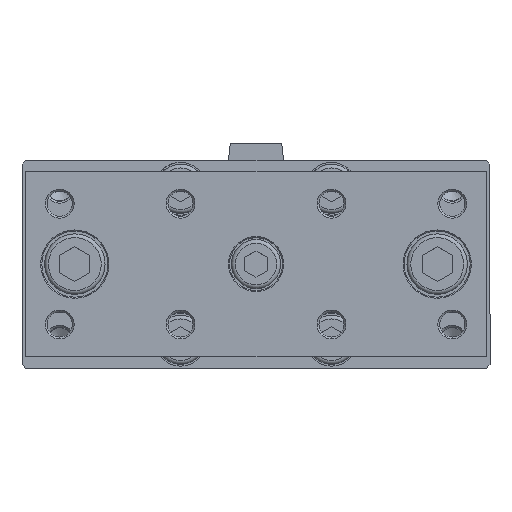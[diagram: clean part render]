
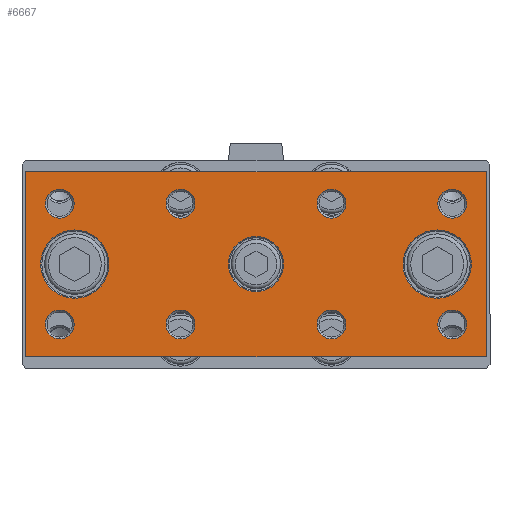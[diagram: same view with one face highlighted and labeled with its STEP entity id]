
A CAD part, top view. The second image highlights one B-rep face of the part: STEP entity #6667.
In plain terms, the highlighted planar face has unit normal (0, 0, 1).
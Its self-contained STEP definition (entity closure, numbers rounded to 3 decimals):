
#6503=CARTESIAN_POINT('',(-38.352,1.555,118.5));
#6504=VERTEX_POINT('',#6503);
#6505=CARTESIAN_POINT('',(-47.402,1.555,118.5));
#6506=DIRECTION('',(0.0,0.0,1.0));
#6507=DIRECTION('',(-1.0,0.0,0.0));
#6508=AXIS2_PLACEMENT_3D('',#6505,#6506,#6507);
#6509=CIRCLE('',#6508,9.05);
#6510=EDGE_CURVE('',#6504,#6504,#6509,.T.);
#6515=CARTESIAN_POINT('',(0.598,5.555,118.5));
#6516=DIRECTION('',(0.0,0.0,1.0));
#6517=DIRECTION('',(1.0,0.0,0.0));
#6518=AXIS2_PLACEMENT_3D('',#6515,#6516,#6517);
#6519=PLANE('',#6518);
#6520=CARTESIAN_POINT('',(61.598,26.055,118.5));
#6521=VERTEX_POINT('',#6520);
#6522=CARTESIAN_POINT('',(61.598,-22.945,118.5));
#6523=VERTEX_POINT('',#6522);
#6524=CARTESIAN_POINT('',(61.598,26.055,118.5));
#6525=DIRECTION('',(0.0,-1.0,0.0));
#6526=VECTOR('',#6525,49.);
#6527=LINE('',#6524,#6526);
#6528=EDGE_CURVE('',#6521,#6523,#6527,.T.);
#6529=ORIENTED_EDGE('',*,*,#6528,.F.);
#6530=CARTESIAN_POINT('',(-60.402,26.055,118.5));
#6531=VERTEX_POINT('',#6530);
#6532=CARTESIAN_POINT('',(-60.402,26.055,118.5));
#6533=DIRECTION('',(1.0,0.0,0.0));
#6534=VECTOR('',#6533,122.0);
#6535=LINE('',#6532,#6534);
#6536=EDGE_CURVE('',#6531,#6521,#6535,.T.);
#6537=ORIENTED_EDGE('',*,*,#6536,.F.);
#6538=CARTESIAN_POINT('',(-60.402,-22.945,118.5));
#6539=VERTEX_POINT('',#6538);
#6540=CARTESIAN_POINT('',(-60.402,-22.945,118.5));
#6541=DIRECTION('',(0.0,1.0,0.0));
#6542=VECTOR('',#6541,49.);
#6543=LINE('',#6540,#6542);
#6544=EDGE_CURVE('',#6539,#6531,#6543,.T.);
#6545=ORIENTED_EDGE('',*,*,#6544,.F.);
#6546=CARTESIAN_POINT('',(61.598,-22.945,118.5));
#6547=DIRECTION('',(-1.0,0.0,0.0));
#6548=VECTOR('',#6547,122.);
#6549=LINE('',#6546,#6548);
#6550=EDGE_CURVE('',#6523,#6539,#6549,.T.);
#6551=ORIENTED_EDGE('',*,*,#6550,.F.);
#6552=EDGE_LOOP('',(#6529,#6537,#6545,#6551));
#6553=FACE_OUTER_BOUND('',#6552,.T.);
#6554=CARTESIAN_POINT('',(7.898,1.555,118.5));
#6555=VERTEX_POINT('',#6554);
#6556=CARTESIAN_POINT('',(0.598,1.555,118.5));
#6557=DIRECTION('',(0.0,0.0,1.0));
#6558=DIRECTION('',(-1.0,0.0,0.0));
#6559=AXIS2_PLACEMENT_3D('',#6556,#6557,#6558);
#6560=CIRCLE('',#6559,7.3);
#6561=EDGE_CURVE('',#6555,#6555,#6560,.T.);
#6562=ORIENTED_EDGE('',*,*,#6561,.F.);
#6563=EDGE_LOOP('',(#6562));
#6564=FACE_BOUND('',#6563,.T.);
#6565=CARTESIAN_POINT('',(24.422,-14.445,118.5));
#6566=VERTEX_POINT('',#6565);
#6567=CARTESIAN_POINT('',(20.598,-14.445,118.5));
#6568=DIRECTION('',(0.0,0.0,1.0));
#6569=DIRECTION('',(-1.0,0.0,0.0));
#6570=AXIS2_PLACEMENT_3D('',#6567,#6568,#6569);
#6571=CIRCLE('',#6570,3.824);
#6572=EDGE_CURVE('',#6566,#6566,#6571,.T.);
#6573=ORIENTED_EDGE('',*,*,#6572,.F.);
#6574=EDGE_LOOP('',(#6573));
#6575=FACE_BOUND('',#6574,.T.);
#6576=CARTESIAN_POINT('',(-47.578,-14.445,118.5));
#6577=VERTEX_POINT('',#6576);
#6578=CARTESIAN_POINT('',(-51.402,-14.445,118.5));
#6579=DIRECTION('',(0.0,0.0,1.0));
#6580=DIRECTION('',(-1.0,0.0,0.0));
#6581=AXIS2_PLACEMENT_3D('',#6578,#6579,#6580);
#6582=CIRCLE('',#6581,3.823);
#6583=EDGE_CURVE('',#6577,#6577,#6582,.T.);
#6584=ORIENTED_EDGE('',*,*,#6583,.F.);
#6585=EDGE_LOOP('',(#6584));
#6586=FACE_BOUND('',#6585,.T.);
#6587=CARTESIAN_POINT('',(56.422,17.555,118.5));
#6588=VERTEX_POINT('',#6587);
#6589=CARTESIAN_POINT('',(52.598,17.555,118.5));
#6590=DIRECTION('',(0.0,0.0,1.0));
#6591=DIRECTION('',(-1.0,0.0,0.0));
#6592=AXIS2_PLACEMENT_3D('',#6589,#6590,#6591);
#6593=CIRCLE('',#6592,3.823);
#6594=EDGE_CURVE('',#6588,#6588,#6593,.T.);
#6595=ORIENTED_EDGE('',*,*,#6594,.F.);
#6596=EDGE_LOOP('',(#6595));
#6597=FACE_BOUND('',#6596,.T.);
#6598=CARTESIAN_POINT('',(56.422,-14.445,118.5));
#6599=VERTEX_POINT('',#6598);
#6600=CARTESIAN_POINT('',(52.598,-14.445,118.5));
#6601=DIRECTION('',(0.0,0.0,1.0));
#6602=DIRECTION('',(-1.0,0.0,0.0));
#6603=AXIS2_PLACEMENT_3D('',#6600,#6601,#6602);
#6604=CIRCLE('',#6603,3.823);
#6605=EDGE_CURVE('',#6599,#6599,#6604,.T.);
#6606=ORIENTED_EDGE('',*,*,#6605,.F.);
#6607=EDGE_LOOP('',(#6606));
#6608=FACE_BOUND('',#6607,.T.);
#6609=CARTESIAN_POINT('',(-47.578,17.555,118.5));
#6610=VERTEX_POINT('',#6609);
#6611=CARTESIAN_POINT('',(-51.402,17.555,118.5));
#6612=DIRECTION('',(0.0,0.0,1.0));
#6613=DIRECTION('',(-1.0,0.0,0.0));
#6614=AXIS2_PLACEMENT_3D('',#6611,#6612,#6613);
#6615=CIRCLE('',#6614,3.823);
#6616=EDGE_CURVE('',#6610,#6610,#6615,.T.);
#6617=ORIENTED_EDGE('',*,*,#6616,.F.);
#6618=EDGE_LOOP('',(#6617));
#6619=FACE_BOUND('',#6618,.T.);
#6620=CARTESIAN_POINT('',(-15.578,17.555,118.5));
#6621=VERTEX_POINT('',#6620);
#6622=CARTESIAN_POINT('',(-19.402,17.555,118.5));
#6623=DIRECTION('',(0.0,0.0,1.0));
#6624=DIRECTION('',(-1.0,0.0,0.0));
#6625=AXIS2_PLACEMENT_3D('',#6622,#6623,#6624);
#6626=CIRCLE('',#6625,3.823);
#6627=EDGE_CURVE('',#6621,#6621,#6626,.T.);
#6628=ORIENTED_EDGE('',*,*,#6627,.F.);
#6629=EDGE_LOOP('',(#6628));
#6630=FACE_BOUND('',#6629,.T.);
#6631=CARTESIAN_POINT('',(24.422,17.555,118.5));
#6632=VERTEX_POINT('',#6631);
#6633=CARTESIAN_POINT('',(20.598,17.555,118.5));
#6634=DIRECTION('',(0.0,0.0,1.0));
#6635=DIRECTION('',(-1.0,0.0,0.0));
#6636=AXIS2_PLACEMENT_3D('',#6633,#6634,#6635);
#6637=CIRCLE('',#6636,3.824);
#6638=EDGE_CURVE('',#6632,#6632,#6637,.T.);
#6639=ORIENTED_EDGE('',*,*,#6638,.F.);
#6640=EDGE_LOOP('',(#6639));
#6641=FACE_BOUND('',#6640,.T.);
#6642=CARTESIAN_POINT('',(-15.578,-14.445,118.5));
#6643=VERTEX_POINT('',#6642);
#6644=CARTESIAN_POINT('',(-19.402,-14.445,118.5));
#6645=DIRECTION('',(0.0,0.0,1.0));
#6646=DIRECTION('',(-1.0,0.0,0.0));
#6647=AXIS2_PLACEMENT_3D('',#6644,#6645,#6646);
#6648=CIRCLE('',#6647,3.823);
#6649=EDGE_CURVE('',#6643,#6643,#6648,.T.);
#6650=ORIENTED_EDGE('',*,*,#6649,.F.);
#6651=EDGE_LOOP('',(#6650));
#6652=FACE_BOUND('',#6651,.T.);
#6653=CARTESIAN_POINT('',(57.648,1.555,118.5));
#6654=VERTEX_POINT('',#6653);
#6655=CARTESIAN_POINT('',(48.598,1.555,118.5));
#6656=DIRECTION('',(0.0,0.0,1.0));
#6657=DIRECTION('',(-1.0,0.0,0.0));
#6658=AXIS2_PLACEMENT_3D('',#6655,#6656,#6657);
#6659=CIRCLE('',#6658,9.05);
#6660=EDGE_CURVE('',#6654,#6654,#6659,.T.);
#6661=ORIENTED_EDGE('',*,*,#6660,.F.);
#6662=EDGE_LOOP('',(#6661));
#6663=FACE_BOUND('',#6662,.T.);
#6664=ORIENTED_EDGE('',*,*,#6510,.F.);
#6665=EDGE_LOOP('',(#6664));
#6666=FACE_BOUND('',#6665,.T.);
#6667=ADVANCED_FACE('',(#6553,#6564,#6575,#6586,#6597,#6608,#6619,#6630,#6641,#6652,#6663,#6666),#6519,.T.);
